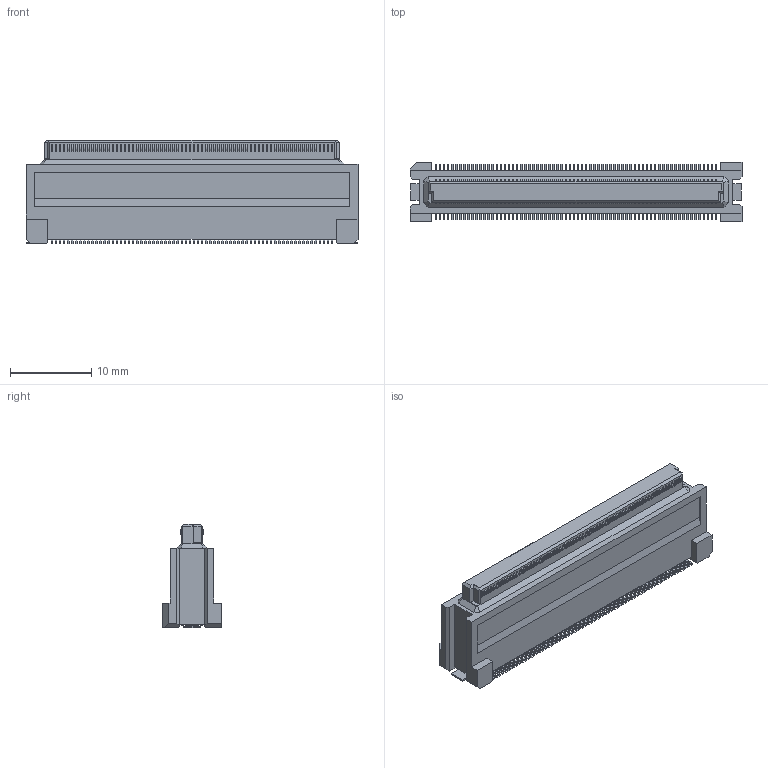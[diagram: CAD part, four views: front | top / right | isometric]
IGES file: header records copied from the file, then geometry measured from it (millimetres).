
Start section: Elysium IGES Interface
Global section: file name: C:\Users\1354\Desktop\P39934_DY10-140FS-4.igs; native system: Creo Elements/Direct Modeling 19.0F  14-Feb-2017; preprocessor: Creo Element/Direct IGES_3D V2.2; author: Unknown; organization: Unknown; date: 20171127.165446; units: millimetre
Bounding box: 40.9 x 7.3 x 12.73 mm (x, y, z)
Volume: 2104.3 mm3; surface area: 1847.3 mm2
Topology: 1 solids, 1 shells, 1970 faces, 5433 edges, 3610 vertices
Faces by surface type: bspline 1970
